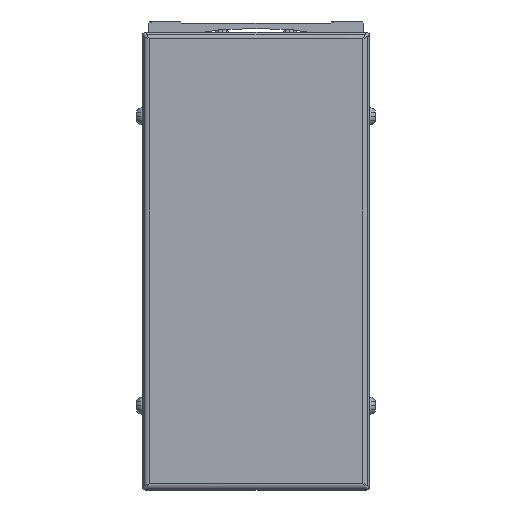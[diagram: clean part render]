
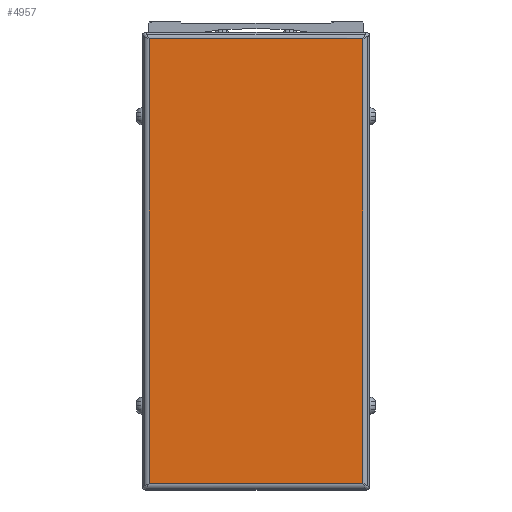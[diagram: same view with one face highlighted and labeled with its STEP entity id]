
A CAD part, front view. The second image highlights one B-rep face of the part: STEP entity #4957.
In plain terms, the highlighted planar face has unit normal (0, -1, 0).
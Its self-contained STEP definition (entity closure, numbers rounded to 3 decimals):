
#4957=ADVANCED_FACE('',(#10173),#10174,.T.);
#10173=FACE_OUTER_BOUND('',#16612,.T.);
#10174=PLANE('',#16613);
#16612=EDGE_LOOP('',(#30652,#30653,#30654,#30655));
#16613=AXIS2_PLACEMENT_3D('',#30656,#30657,#30658);
#30652=ORIENTED_EDGE('',*,*,#39648,.F.);
#30653=ORIENTED_EDGE('',*,*,#39649,.F.);
#30654=ORIENTED_EDGE('',*,*,#39650,.F.);
#30655=ORIENTED_EDGE('',*,*,#39651,.F.);
#30656=CARTESIAN_POINT('',(300.,-19.,-44.));
#30657=DIRECTION('',(0.,-1.0,0.));
#30658=DIRECTION('',(0.,0.,1.0));
#39648=EDGE_CURVE('',#48791,#48792,#48793,.T.);
#39649=EDGE_CURVE('',#48794,#48791,#48795,.T.);
#39650=EDGE_CURVE('',#48796,#48794,#48797,.T.);
#39651=EDGE_CURVE('',#48792,#48796,#48798,.T.);
#48791=VERTEX_POINT('',#61840);
#48792=VERTEX_POINT('',#61841);
#48793=LINE('',#61842,#61843);
#48794=VERTEX_POINT('',#61844);
#48795=LINE('',#61845,#61846);
#48796=VERTEX_POINT('',#61847);
#48797=LINE('',#61848,#61849);
#48798=LINE('',#61850,#61851);
#61840=CARTESIAN_POINT('',(268.3,-19.,22.));
#61841=CARTESIAN_POINT('',(331.7,-19.,22.));
#61842=CARTESIAN_POINT('',(300.,-19.,22.));
#61843=VECTOR('',#69179,10.0);
#61844=CARTESIAN_POINT('',(268.3,-19.,-110.));
#61845=CARTESIAN_POINT('',(268.3,-19.,-44.));
#61846=VECTOR('',#69180,10.0);
#61847=CARTESIAN_POINT('',(331.7,-19.,-110.));
#61848=CARTESIAN_POINT('',(300.,-19.,-110.));
#61849=VECTOR('',#69181,10.0);
#61850=CARTESIAN_POINT('',(331.7,-19.,-44.));
#61851=VECTOR('',#69182,10.0);
#69179=DIRECTION('',(1.0,0.,0.));
#69180=DIRECTION('',(0.,0.,1.0));
#69181=DIRECTION('',(-1.0,0.,0.));
#69182=DIRECTION('',(0.,0.,-1.0));
